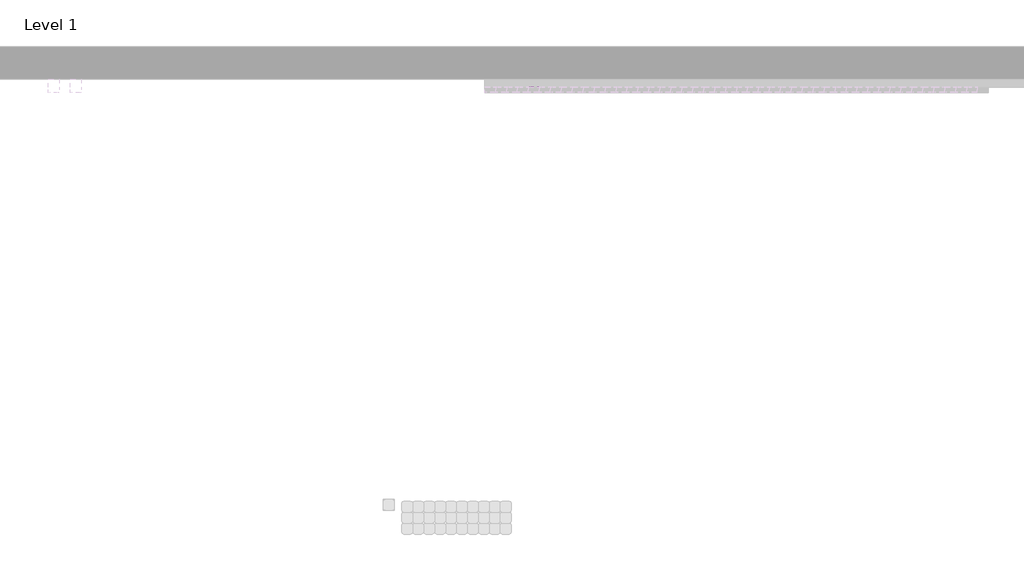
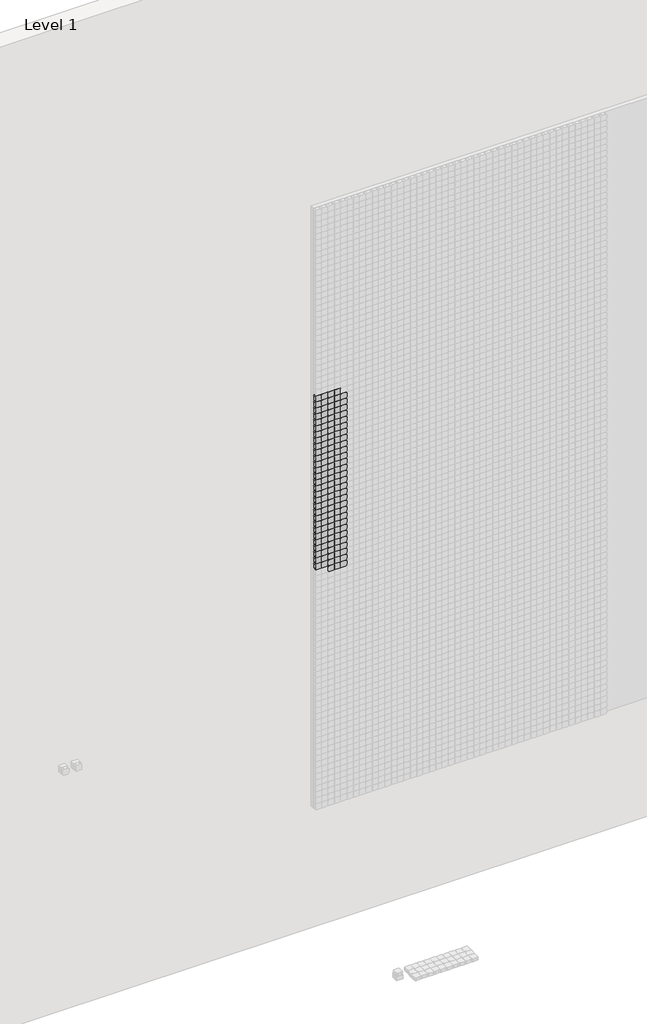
# One storey, part 5 of 71: 147 proxies.
"""IFC4 building model written with IfcOpenShell, lengths in millimetres."""

from ifc_helpers import new_model, si_unit, origin, place, context, project, spatial, transform, mapped, element, save
from components import generic_models_afde289c

model = new_model("IFC4")

# Units and contexts
model_context = context("Model", 3, world=origin())
ifc_project = project(units=[si_unit("LENGTHUNIT", "METRE", prefix="MILLI")], contexts=[model_context])

# Site, building, storey
site = spatial("IfcSite", under=ifc_project)
building = spatial("IfcBuilding", under=site)
storey = spatial("IfcBuildingStorey", under=building, Name="Level 1", Elevation=0.0)

# Proxies
placement = place(None, origin())
generic_models_shape = generic_models_afde289c(model_context)
element("IfcBuildingElementProxy", 1, Name="Pixel_M : Pixel_M", ObjectType="Pixel_M : Pixel_M", at=placement, inside=storey, context=model_context, shape_type="MappedRepresentation", body=[
    mapped(generic_models_shape, transform((4912.4280941, -75.0, 4416.3566215), x_axis=(1.0, 0.0, 0.0), y_axis=(0.0, 0.0, 1.0), z_axis=(0.0, -1.0, 0.0))),
])
element("IfcBuildingElementProxy", 2, Name="Pixel_M : Pixel_M", ObjectType="Pixel_M : Pixel_M", at=placement, inside=storey, context=model_context, shape_type="MappedRepresentation", body=[
    mapped(generic_models_shape, transform((4862.4280941, -75.0, 4416.3566215), x_axis=(1.0, 0.0, 0.0), y_axis=(0.0, 0.0, 1.0), z_axis=(0.0, -1.0, 0.0))),
])
element("IfcBuildingElementProxy", 3, Name="Pixel_M : Pixel_M", ObjectType="Pixel_M : Pixel_M", at=placement, inside=storey, context=model_context, shape_type="MappedRepresentation", body=[
    mapped(generic_models_shape, transform((4812.4280941, -75.0, 4416.3566215), x_axis=(1.0, 0.0, 0.0), y_axis=(0.0, 0.0, 1.0), z_axis=(0.0, -1.0, 0.0))),
])
element("IfcBuildingElementProxy", 4, Name="Pixel_M : Pixel_M", ObjectType="Pixel_M : Pixel_M", at=placement, inside=storey, context=model_context, shape_type="MappedRepresentation", body=[
    mapped(generic_models_shape, transform((4762.4280941, -75.0, 4416.3566215), x_axis=(1.0, 0.0, 0.0), y_axis=(0.0, 0.0, 1.0), z_axis=(0.0, -1.0, 0.0))),
])
element("IfcBuildingElementProxy", 5, Name="Pixel_M : Pixel_M", ObjectType="Pixel_M : Pixel_M", at=placement, inside=storey, context=model_context, shape_type="MappedRepresentation", body=[
    mapped(generic_models_shape, transform((4962.4280941, -75.0, 4366.3566215), x_axis=(1.0, 0.0, 0.0), y_axis=(0.0, 0.0, 1.0), z_axis=(0.0, -1.0, 0.0))),
])
element("IfcBuildingElementProxy", 6, Name="Pixel_M : Pixel_M", ObjectType="Pixel_M : Pixel_M", at=placement, inside=storey, context=model_context, shape_type="MappedRepresentation", body=[
    mapped(generic_models_shape, transform((4912.4280941, -75.0, 4366.3566215), x_axis=(1.0, 0.0, 0.0), y_axis=(0.0, 0.0, 1.0), z_axis=(0.0, -1.0, 0.0))),
])
element("IfcBuildingElementProxy", 7, Name="Pixel_M : Pixel_M", ObjectType="Pixel_M : Pixel_M", at=placement, inside=storey, context=model_context, shape_type="MappedRepresentation", body=[
    mapped(generic_models_shape, transform((4862.4280941, -75.0, 4366.3566215), x_axis=(1.0, 0.0, 0.0), y_axis=(0.0, 0.0, 1.0), z_axis=(0.0, -1.0, 0.0))),
])
element("IfcBuildingElementProxy", 8, Name="Pixel_M : Pixel_M", ObjectType="Pixel_M : Pixel_M", at=placement, inside=storey, context=model_context, shape_type="MappedRepresentation", body=[
    mapped(generic_models_shape, transform((4812.4280941, -75.0, 4366.3566215), x_axis=(1.0, 0.0, 0.0), y_axis=(0.0, 0.0, 1.0), z_axis=(0.0, -1.0, 0.0))),
])
element("IfcBuildingElementProxy", 9, Name="Pixel_M : Pixel_M", ObjectType="Pixel_M : Pixel_M", at=placement, inside=storey, context=model_context, shape_type="MappedRepresentation", body=[
    mapped(generic_models_shape, transform((4762.4280941, -75.0, 4366.3566215), x_axis=(1.0, 0.0, 0.0), y_axis=(0.0, 0.0, 1.0), z_axis=(0.0, -1.0, 0.0))),
])
element("IfcBuildingElementProxy", 10, Name="Pixel_M : Pixel_M", ObjectType="Pixel_M : Pixel_M", at=placement, inside=storey, context=model_context, shape_type="MappedRepresentation", body=[
    mapped(generic_models_shape, transform((4962.4280941, -75.0, 4316.3566215), x_axis=(1.0, 0.0, 0.0), y_axis=(0.0, 0.0, 1.0), z_axis=(0.0, -1.0, 0.0))),
])
element("IfcBuildingElementProxy", 11, Name="Pixel_M : Pixel_M", ObjectType="Pixel_M : Pixel_M", at=placement, inside=storey, context=model_context, shape_type="MappedRepresentation", body=[
    mapped(generic_models_shape, transform((4912.4280941, -75.0, 4316.3566215), x_axis=(1.0, 0.0, 0.0), y_axis=(0.0, 0.0, 1.0), z_axis=(0.0, -1.0, 0.0))),
])
element("IfcBuildingElementProxy", 12, Name="Pixel_M : Pixel_M", ObjectType="Pixel_M : Pixel_M", at=placement, inside=storey, context=model_context, shape_type="MappedRepresentation", body=[
    mapped(generic_models_shape, transform((4862.4280941, -75.0, 4316.3566215), x_axis=(1.0, 0.0, 0.0), y_axis=(0.0, 0.0, 1.0), z_axis=(0.0, -1.0, 0.0))),
])
element("IfcBuildingElementProxy", 13, Name="Pixel_M : Pixel_M", ObjectType="Pixel_M : Pixel_M", at=placement, inside=storey, context=model_context, shape_type="MappedRepresentation", body=[
    mapped(generic_models_shape, transform((4812.4280941, -75.0, 4316.3566215), x_axis=(1.0, 0.0, 0.0), y_axis=(0.0, 0.0, 1.0), z_axis=(0.0, -1.0, 0.0))),
])
element("IfcBuildingElementProxy", 14, Name="Pixel_M : Pixel_M", ObjectType="Pixel_M : Pixel_M", at=placement, inside=storey, context=model_context, shape_type="MappedRepresentation", body=[
    mapped(generic_models_shape, transform((4762.4280941, -75.0, 4316.3566215), x_axis=(1.0, 0.0, 0.0), y_axis=(0.0, 0.0, 1.0), z_axis=(0.0, -1.0, 0.0))),
])
element("IfcBuildingElementProxy", 15, Name="Pixel_M : Pixel_M", ObjectType="Pixel_M : Pixel_M", at=placement, inside=storey, context=model_context, shape_type="MappedRepresentation", body=[
    mapped(generic_models_shape, transform((4962.4280941, -75.0, 4266.3566215), x_axis=(1.0, 0.0, 0.0), y_axis=(0.0, 0.0, 1.0), z_axis=(0.0, -1.0, 0.0))),
])
element("IfcBuildingElementProxy", 16, Name="Pixel_M : Pixel_M", ObjectType="Pixel_M : Pixel_M", at=placement, inside=storey, context=model_context, shape_type="MappedRepresentation", body=[
    mapped(generic_models_shape, transform((4912.4280941, -75.0, 4266.3566215), x_axis=(1.0, 0.0, 0.0), y_axis=(0.0, 0.0, 1.0), z_axis=(0.0, -1.0, 0.0))),
])
element("IfcBuildingElementProxy", 17, Name="Pixel_M : Pixel_M", ObjectType="Pixel_M : Pixel_M", at=placement, inside=storey, context=model_context, shape_type="MappedRepresentation", body=[
    mapped(generic_models_shape, transform((4862.4280941, -75.0, 4266.3566215), x_axis=(1.0, 0.0, 0.0), y_axis=(0.0, 0.0, 1.0), z_axis=(0.0, -1.0, 0.0))),
])
element("IfcBuildingElementProxy", 18, Name="Pixel_M : Pixel_M", ObjectType="Pixel_M : Pixel_M", at=placement, inside=storey, context=model_context, shape_type="MappedRepresentation", body=[
    mapped(generic_models_shape, transform((4812.4280941, -75.0, 4266.3566215), x_axis=(1.0, 0.0, 0.0), y_axis=(0.0, 0.0, 1.0), z_axis=(0.0, -1.0, 0.0))),
])
element("IfcBuildingElementProxy", 19, Name="Pixel_M : Pixel_M", ObjectType="Pixel_M : Pixel_M", at=placement, inside=storey, context=model_context, shape_type="MappedRepresentation", body=[
    mapped(generic_models_shape, transform((4762.4280941, -75.0, 4266.3566215), x_axis=(1.0, 0.0, 0.0), y_axis=(0.0, 0.0, 1.0), z_axis=(0.0, -1.0, 0.0))),
])
element("IfcBuildingElementProxy", 20, Name="Pixel_M : Pixel_M", ObjectType="Pixel_M : Pixel_M", at=placement, inside=storey, context=model_context, shape_type="MappedRepresentation", body=[
    mapped(generic_models_shape, transform((4962.4280941, -75.0, 4216.3566215), x_axis=(1.0, 0.0, 0.0), y_axis=(0.0, 0.0, 1.0), z_axis=(0.0, -1.0, 0.0))),
])
element("IfcBuildingElementProxy", 21, Name="Pixel_M : Pixel_M", ObjectType="Pixel_M : Pixel_M", at=placement, inside=storey, context=model_context, shape_type="MappedRepresentation", body=[
    mapped(generic_models_shape, transform((4912.4280941, -75.0, 4216.3566215), x_axis=(1.0, 0.0, 0.0), y_axis=(0.0, 0.0, 1.0), z_axis=(0.0, -1.0, 0.0))),
])
element("IfcBuildingElementProxy", 22, Name="Pixel_M : Pixel_M", ObjectType="Pixel_M : Pixel_M", at=placement, inside=storey, context=model_context, shape_type="MappedRepresentation", body=[
    mapped(generic_models_shape, transform((4862.4280941, -75.0, 4216.3566215), x_axis=(1.0, 0.0, 0.0), y_axis=(0.0, 0.0, 1.0), z_axis=(0.0, -1.0, 0.0))),
])
element("IfcBuildingElementProxy", 23, Name="Pixel_M : Pixel_M", ObjectType="Pixel_M : Pixel_M", at=placement, inside=storey, context=model_context, shape_type="MappedRepresentation", body=[
    mapped(generic_models_shape, transform((4812.4280941, -75.0, 4216.3566215), x_axis=(1.0, 0.0, 0.0), y_axis=(0.0, 0.0, 1.0), z_axis=(0.0, -1.0, 0.0))),
])
element("IfcBuildingElementProxy", 24, Name="Pixel_M : Pixel_M", ObjectType="Pixel_M : Pixel_M", at=placement, inside=storey, context=model_context, shape_type="MappedRepresentation", body=[
    mapped(generic_models_shape, transform((4762.4280941, -75.0, 4216.3566215), x_axis=(1.0, 0.0, 0.0), y_axis=(0.0, 0.0, 1.0), z_axis=(0.0, -1.0, 0.0))),
])
element("IfcBuildingElementProxy", 25, Name="Pixel_M : Pixel_M", ObjectType="Pixel_M : Pixel_M", at=placement, inside=storey, context=model_context, shape_type="MappedRepresentation", body=[
    mapped(generic_models_shape, transform((4962.4280941, -75.0, 4166.3566215), x_axis=(1.0, 0.0, 0.0), y_axis=(0.0, 0.0, 1.0), z_axis=(0.0, -1.0, 0.0))),
])
element("IfcBuildingElementProxy", 26, Name="Pixel_M : Pixel_M", ObjectType="Pixel_M : Pixel_M", at=placement, inside=storey, context=model_context, shape_type="MappedRepresentation", body=[
    mapped(generic_models_shape, transform((4912.4280941, -75.0, 4166.3566215), x_axis=(1.0, 0.0, 0.0), y_axis=(0.0, 0.0, 1.0), z_axis=(0.0, -1.0, 0.0))),
])
element("IfcBuildingElementProxy", 27, Name="Pixel_M : Pixel_M", ObjectType="Pixel_M : Pixel_M", at=placement, inside=storey, context=model_context, shape_type="MappedRepresentation", body=[
    mapped(generic_models_shape, transform((4862.4280941, -75.0, 4166.3566215), x_axis=(1.0, 0.0, 0.0), y_axis=(0.0, 0.0, 1.0), z_axis=(0.0, -1.0, 0.0))),
])
element("IfcBuildingElementProxy", 28, Name="Pixel_M : Pixel_M", ObjectType="Pixel_M : Pixel_M", at=placement, inside=storey, context=model_context, shape_type="MappedRepresentation", body=[
    mapped(generic_models_shape, transform((4812.4280941, -75.0, 4166.3566215), x_axis=(1.0, 0.0, 0.0), y_axis=(0.0, 0.0, 1.0), z_axis=(0.0, -1.0, 0.0))),
])
element("IfcBuildingElementProxy", 29, Name="Pixel_M : Pixel_M", ObjectType="Pixel_M : Pixel_M", at=placement, inside=storey, context=model_context, shape_type="MappedRepresentation", body=[
    mapped(generic_models_shape, transform((4762.4280941, -75.0, 4166.3566215), x_axis=(1.0, 0.0, 0.0), y_axis=(0.0, 0.0, 1.0), z_axis=(0.0, -1.0, 0.0))),
])
element("IfcBuildingElementProxy", 30, Name="Pixel_M : Pixel_M", ObjectType="Pixel_M : Pixel_M", at=placement, inside=storey, context=model_context, shape_type="MappedRepresentation", body=[
    mapped(generic_models_shape, transform((4962.4280941, -75.0, 4116.3566215), x_axis=(1.0, 0.0, 0.0), y_axis=(0.0, 0.0, 1.0), z_axis=(0.0, -1.0, 0.0))),
])
element("IfcBuildingElementProxy", 31, Name="Pixel_M : Pixel_M", ObjectType="Pixel_M : Pixel_M", at=placement, inside=storey, context=model_context, shape_type="MappedRepresentation", body=[
    mapped(generic_models_shape, transform((4912.4280941, -75.0, 4116.3566215), x_axis=(1.0, 0.0, 0.0), y_axis=(0.0, 0.0, 1.0), z_axis=(0.0, -1.0, 0.0))),
])
element("IfcBuildingElementProxy", 32, Name="Pixel_M : Pixel_M", ObjectType="Pixel_M : Pixel_M", at=placement, inside=storey, context=model_context, shape_type="MappedRepresentation", body=[
    mapped(generic_models_shape, transform((4862.4280941, -75.0, 4116.3566215), x_axis=(1.0, 0.0, 0.0), y_axis=(0.0, 0.0, 1.0), z_axis=(0.0, -1.0, 0.0))),
])
element("IfcBuildingElementProxy", 33, Name="Pixel_M : Pixel_M", ObjectType="Pixel_M : Pixel_M", at=placement, inside=storey, context=model_context, shape_type="MappedRepresentation", body=[
    mapped(generic_models_shape, transform((4812.4280941, -75.0, 4116.3566215), x_axis=(1.0, 0.0, 0.0), y_axis=(0.0, 0.0, 1.0), z_axis=(0.0, -1.0, 0.0))),
])
element("IfcBuildingElementProxy", 34, Name="Pixel_M : Pixel_M", ObjectType="Pixel_M : Pixel_M", at=placement, inside=storey, context=model_context, shape_type="MappedRepresentation", body=[
    mapped(generic_models_shape, transform((4762.4280941, -75.0, 4116.3566215), x_axis=(1.0, 0.0, 0.0), y_axis=(0.0, 0.0, 1.0), z_axis=(0.0, -1.0, 0.0))),
])
element("IfcBuildingElementProxy", 35, Name="Pixel_M : Pixel_M", ObjectType="Pixel_M : Pixel_M", at=placement, inside=storey, context=model_context, shape_type="MappedRepresentation", body=[
    mapped(generic_models_shape, transform((4962.4280941, -75.0, 4066.3566215), x_axis=(1.0, 0.0, 0.0), y_axis=(0.0, 0.0, 1.0), z_axis=(0.0, -1.0, 0.0))),
])
element("IfcBuildingElementProxy", 36, Name="Pixel_M : Pixel_M", ObjectType="Pixel_M : Pixel_M", at=placement, inside=storey, context=model_context, shape_type="MappedRepresentation", body=[
    mapped(generic_models_shape, transform((4912.4280941, -75.0, 4066.3566215), x_axis=(1.0, 0.0, 0.0), y_axis=(0.0, 0.0, 1.0), z_axis=(0.0, -1.0, 0.0))),
])
element("IfcBuildingElementProxy", 37, Name="Pixel_M : Pixel_M", ObjectType="Pixel_M : Pixel_M", at=placement, inside=storey, context=model_context, shape_type="MappedRepresentation", body=[
    mapped(generic_models_shape, transform((4862.4280941, -75.0, 4066.3566215), x_axis=(1.0, 0.0, 0.0), y_axis=(0.0, 0.0, 1.0), z_axis=(0.0, -1.0, 0.0))),
])
element("IfcBuildingElementProxy", 38, Name="Pixel_M : Pixel_M", ObjectType="Pixel_M : Pixel_M", at=placement, inside=storey, context=model_context, shape_type="MappedRepresentation", body=[
    mapped(generic_models_shape, transform((4812.4280941, -75.0, 4066.3566215), x_axis=(1.0, 0.0, 0.0), y_axis=(0.0, 0.0, 1.0), z_axis=(0.0, -1.0, 0.0))),
])
element("IfcBuildingElementProxy", 39, Name="Pixel_M : Pixel_M", ObjectType="Pixel_M : Pixel_M", at=placement, inside=storey, context=model_context, shape_type="MappedRepresentation", body=[
    mapped(generic_models_shape, transform((4762.4280941, -75.0, 4066.3566215), x_axis=(1.0, 0.0, 0.0), y_axis=(0.0, 0.0, 1.0), z_axis=(0.0, -1.0, 0.0))),
])
element("IfcBuildingElementProxy", 40, Name="Pixel_M : Pixel_M", ObjectType="Pixel_M : Pixel_M", at=placement, inside=storey, context=model_context, shape_type="MappedRepresentation", body=[
    mapped(generic_models_shape, transform((4962.4280941, -75.0, 4016.3566215), x_axis=(1.0, 0.0, 0.0), y_axis=(0.0, 0.0, 1.0), z_axis=(0.0, -1.0, 0.0))),
])
element("IfcBuildingElementProxy", 41, Name="Pixel_M : Pixel_M", ObjectType="Pixel_M : Pixel_M", at=placement, inside=storey, context=model_context, shape_type="MappedRepresentation", body=[
    mapped(generic_models_shape, transform((4912.4280941, -75.0, 4016.3566215), x_axis=(1.0, 0.0, 0.0), y_axis=(0.0, 0.0, 1.0), z_axis=(0.0, -1.0, 0.0))),
])
element("IfcBuildingElementProxy", 42, Name="Pixel_M : Pixel_M", ObjectType="Pixel_M : Pixel_M", at=placement, inside=storey, context=model_context, shape_type="MappedRepresentation", body=[
    mapped(generic_models_shape, transform((4862.4280941, -75.0, 4016.3566215), x_axis=(1.0, 0.0, 0.0), y_axis=(0.0, 0.0, 1.0), z_axis=(0.0, -1.0, 0.0))),
])
element("IfcBuildingElementProxy", 43, Name="Pixel_M : Pixel_M", ObjectType="Pixel_M : Pixel_M", at=placement, inside=storey, context=model_context, shape_type="MappedRepresentation", body=[
    mapped(generic_models_shape, transform((4812.4280941, -75.0, 4016.3566215), x_axis=(1.0, 0.0, 0.0), y_axis=(0.0, 0.0, 1.0), z_axis=(0.0, -1.0, 0.0))),
])
element("IfcBuildingElementProxy", 44, Name="Pixel_M : Pixel_M", ObjectType="Pixel_M : Pixel_M", at=placement, inside=storey, context=model_context, shape_type="MappedRepresentation", body=[
    mapped(generic_models_shape, transform((4762.4280941, -75.0, 4016.3566215), x_axis=(1.0, 0.0, 0.0), y_axis=(0.0, 0.0, 1.0), z_axis=(0.0, -1.0, 0.0))),
])
element("IfcBuildingElementProxy", 45, Name="Pixel_M : Pixel_M", ObjectType="Pixel_M : Pixel_M", at=placement, inside=storey, context=model_context, shape_type="MappedRepresentation", body=[
    mapped(generic_models_shape, transform((4962.4280941, -75.0, 3966.3566215), x_axis=(1.0, 0.0, 0.0), y_axis=(0.0, 0.0, 1.0), z_axis=(0.0, -1.0, 0.0))),
])
element("IfcBuildingElementProxy", 46, Name="Pixel_M : Pixel_M", ObjectType="Pixel_M : Pixel_M", at=placement, inside=storey, context=model_context, shape_type="MappedRepresentation", body=[
    mapped(generic_models_shape, transform((4912.4280941, -75.0, 3966.3566215), x_axis=(1.0, 0.0, 0.0), y_axis=(0.0, 0.0, 1.0), z_axis=(0.0, -1.0, 0.0))),
])
element("IfcBuildingElementProxy", 47, Name="Pixel_M : Pixel_M", ObjectType="Pixel_M : Pixel_M", at=placement, inside=storey, context=model_context, shape_type="MappedRepresentation", body=[
    mapped(generic_models_shape, transform((4862.4280941, -75.0, 3966.3566215), x_axis=(1.0, 0.0, 0.0), y_axis=(0.0, 0.0, 1.0), z_axis=(0.0, -1.0, 0.0))),
])
element("IfcBuildingElementProxy", 48, Name="Pixel_M : Pixel_M", ObjectType="Pixel_M : Pixel_M", at=placement, inside=storey, context=model_context, shape_type="MappedRepresentation", body=[
    mapped(generic_models_shape, transform((4812.4280941, -75.0, 3966.3566215), x_axis=(1.0, 0.0, 0.0), y_axis=(0.0, 0.0, 1.0), z_axis=(0.0, -1.0, 0.0))),
])
element("IfcBuildingElementProxy", 49, Name="Pixel_M : Pixel_M", ObjectType="Pixel_M : Pixel_M", at=placement, inside=storey, context=model_context, shape_type="MappedRepresentation", body=[
    mapped(generic_models_shape, transform((4762.4280941, -75.0, 3966.3566215), x_axis=(1.0, 0.0, 0.0), y_axis=(0.0, 0.0, 1.0), z_axis=(0.0, -1.0, 0.0))),
])
element("IfcBuildingElementProxy", 50, Name="Pixel_M : Pixel_M", ObjectType="Pixel_M : Pixel_M", at=placement, inside=storey, context=model_context, shape_type="MappedRepresentation", body=[
    mapped(generic_models_shape, transform((4962.4280941, -75.0, 3916.3566215), x_axis=(1.0, 0.0, 0.0), y_axis=(0.0, 0.0, 1.0), z_axis=(0.0, -1.0, 0.0))),
])
element("IfcBuildingElementProxy", 51, Name="Pixel_M : Pixel_M", ObjectType="Pixel_M : Pixel_M", at=placement, inside=storey, context=model_context, shape_type="MappedRepresentation", body=[
    mapped(generic_models_shape, transform((4912.4280941, -75.0, 3916.3566215), x_axis=(1.0, 0.0, 0.0), y_axis=(0.0, 0.0, 1.0), z_axis=(0.0, -1.0, 0.0))),
])
element("IfcBuildingElementProxy", 52, Name="Pixel_M : Pixel_M", ObjectType="Pixel_M : Pixel_M", at=placement, inside=storey, context=model_context, shape_type="MappedRepresentation", body=[
    mapped(generic_models_shape, transform((4862.4280941, -75.0, 3916.3566215), x_axis=(1.0, 0.0, 0.0), y_axis=(0.0, 0.0, 1.0), z_axis=(0.0, -1.0, 0.0))),
])
element("IfcBuildingElementProxy", 53, Name="Pixel_M : Pixel_M", ObjectType="Pixel_M : Pixel_M", at=placement, inside=storey, context=model_context, shape_type="MappedRepresentation", body=[
    mapped(generic_models_shape, transform((4812.4280941, -75.0, 3916.3566215), x_axis=(1.0, 0.0, 0.0), y_axis=(0.0, 0.0, 1.0), z_axis=(0.0, -1.0, 0.0))),
])
element("IfcBuildingElementProxy", 54, Name="Pixel_M : Pixel_M", ObjectType="Pixel_M : Pixel_M", at=placement, inside=storey, context=model_context, shape_type="MappedRepresentation", body=[
    mapped(generic_models_shape, transform((4762.4280941, -75.0, 3916.3566215), x_axis=(1.0, 0.0, 0.0), y_axis=(0.0, 0.0, 1.0), z_axis=(0.0, -1.0, 0.0))),
])
element("IfcBuildingElementProxy", 55, Name="Pixel_M : Pixel_M", ObjectType="Pixel_M : Pixel_M", at=placement, inside=storey, context=model_context, shape_type="MappedRepresentation", body=[
    mapped(generic_models_shape, transform((4962.4280941, -75.0, 3866.3566215), x_axis=(1.0, 0.0, 0.0), y_axis=(0.0, 0.0, 1.0), z_axis=(0.0, -1.0, 0.0))),
])
element("IfcBuildingElementProxy", 56, Name="Pixel_M : Pixel_M", ObjectType="Pixel_M : Pixel_M", at=placement, inside=storey, context=model_context, shape_type="MappedRepresentation", body=[
    mapped(generic_models_shape, transform((4912.4280941, -75.0, 3866.3566215), x_axis=(1.0, 0.0, 0.0), y_axis=(0.0, 0.0, 1.0), z_axis=(0.0, -1.0, 0.0))),
])
element("IfcBuildingElementProxy", 57, Name="Pixel_M : Pixel_M", ObjectType="Pixel_M : Pixel_M", at=placement, inside=storey, context=model_context, shape_type="MappedRepresentation", body=[
    mapped(generic_models_shape, transform((4862.4280941, -75.0, 3866.3566215), x_axis=(1.0, 0.0, 0.0), y_axis=(0.0, 0.0, 1.0), z_axis=(0.0, -1.0, 0.0))),
])
element("IfcBuildingElementProxy", 58, Name="Pixel_M : Pixel_M", ObjectType="Pixel_M : Pixel_M", at=placement, inside=storey, context=model_context, shape_type="MappedRepresentation", body=[
    mapped(generic_models_shape, transform((4812.4280941, -75.0, 3866.3566215), x_axis=(1.0, 0.0, 0.0), y_axis=(0.0, 0.0, 1.0), z_axis=(0.0, -1.0, 0.0))),
])
element("IfcBuildingElementProxy", 59, Name="Pixel_M : Pixel_M", ObjectType="Pixel_M : Pixel_M", at=placement, inside=storey, context=model_context, shape_type="MappedRepresentation", body=[
    mapped(generic_models_shape, transform((4762.4280941, -75.0, 3866.3566215), x_axis=(1.0, 0.0, 0.0), y_axis=(0.0, 0.0, 1.0), z_axis=(0.0, -1.0, 0.0))),
])
element("IfcBuildingElementProxy", 60, Name="Pixel_M : Pixel_M", ObjectType="Pixel_M : Pixel_M", at=placement, inside=storey, context=model_context, shape_type="MappedRepresentation", body=[
    mapped(generic_models_shape, transform((4962.4280941, -75.0, 3816.3566215), x_axis=(1.0, 0.0, 0.0), y_axis=(0.0, 0.0, 1.0), z_axis=(0.0, -1.0, 0.0))),
])
element("IfcBuildingElementProxy", 61, Name="Pixel_M : Pixel_M", ObjectType="Pixel_M : Pixel_M", at=placement, inside=storey, context=model_context, shape_type="MappedRepresentation", body=[
    mapped(generic_models_shape, transform((4912.4280941, -75.0, 3816.3566215), x_axis=(1.0, 0.0, 0.0), y_axis=(0.0, 0.0, 1.0), z_axis=(0.0, -1.0, 0.0))),
])
element("IfcBuildingElementProxy", 62, Name="Pixel_M : Pixel_M", ObjectType="Pixel_M : Pixel_M", at=placement, inside=storey, context=model_context, shape_type="MappedRepresentation", body=[
    mapped(generic_models_shape, transform((4862.4280941, -75.0, 3816.3566215), x_axis=(1.0, 0.0, 0.0), y_axis=(0.0, 0.0, 1.0), z_axis=(0.0, -1.0, 0.0))),
])
element("IfcBuildingElementProxy", 63, Name="Pixel_M : Pixel_M", ObjectType="Pixel_M : Pixel_M", at=placement, inside=storey, context=model_context, shape_type="MappedRepresentation", body=[
    mapped(generic_models_shape, transform((4812.4280941, -75.0, 3816.3566215), x_axis=(1.0, 0.0, 0.0), y_axis=(0.0, 0.0, 1.0), z_axis=(0.0, -1.0, 0.0))),
])
element("IfcBuildingElementProxy", 64, Name="Pixel_M : Pixel_M", ObjectType="Pixel_M : Pixel_M", at=placement, inside=storey, context=model_context, shape_type="MappedRepresentation", body=[
    mapped(generic_models_shape, transform((4762.4280941, -75.0, 3816.3566215), x_axis=(1.0, 0.0, 0.0), y_axis=(0.0, 0.0, 1.0), z_axis=(0.0, -1.0, 0.0))),
])
element("IfcBuildingElementProxy", 65, Name="Pixel_M : Pixel_M", ObjectType="Pixel_M : Pixel_M", at=placement, inside=storey, context=model_context, shape_type="MappedRepresentation", body=[
    mapped(generic_models_shape, transform((4962.4280941, -75.0, 3766.3566215), x_axis=(1.0, 0.0, 0.0), y_axis=(0.0, 0.0, 1.0), z_axis=(0.0, -1.0, 0.0))),
])
element("IfcBuildingElementProxy", 66, Name="Pixel_M : Pixel_M", ObjectType="Pixel_M : Pixel_M", at=placement, inside=storey, context=model_context, shape_type="MappedRepresentation", body=[
    mapped(generic_models_shape, transform((4912.4280941, -75.0, 3766.3566215), x_axis=(1.0, 0.0, 0.0), y_axis=(0.0, 0.0, 1.0), z_axis=(0.0, -1.0, 0.0))),
])
element("IfcBuildingElementProxy", 67, Name="Pixel_M : Pixel_M", ObjectType="Pixel_M : Pixel_M", at=placement, inside=storey, context=model_context, shape_type="MappedRepresentation", body=[
    mapped(generic_models_shape, transform((4862.4280941, -75.0, 3766.3566215), x_axis=(1.0, 0.0, 0.0), y_axis=(0.0, 0.0, 1.0), z_axis=(0.0, -1.0, 0.0))),
])
element("IfcBuildingElementProxy", 68, Name="Pixel_M : Pixel_M", ObjectType="Pixel_M : Pixel_M", at=placement, inside=storey, context=model_context, shape_type="MappedRepresentation", body=[
    mapped(generic_models_shape, transform((4812.4280941, -75.0, 3766.3566215), x_axis=(1.0, 0.0, 0.0), y_axis=(0.0, 0.0, 1.0), z_axis=(0.0, -1.0, 0.0))),
])
element("IfcBuildingElementProxy", 69, Name="Pixel_M : Pixel_M", ObjectType="Pixel_M : Pixel_M", at=placement, inside=storey, context=model_context, shape_type="MappedRepresentation", body=[
    mapped(generic_models_shape, transform((4762.4280941, -75.0, 3766.3566215), x_axis=(1.0, 0.0, 0.0), y_axis=(0.0, 0.0, 1.0), z_axis=(0.0, -1.0, 0.0))),
])
element("IfcBuildingElementProxy", 70, Name="Pixel_M : Pixel_M", ObjectType="Pixel_M : Pixel_M", at=placement, inside=storey, context=model_context, shape_type="MappedRepresentation", body=[
    mapped(generic_models_shape, transform((4962.4280941, -75.0, 3716.3566215), x_axis=(1.0, 0.0, 0.0), y_axis=(0.0, 0.0, 1.0), z_axis=(0.0, -1.0, 0.0))),
])
element("IfcBuildingElementProxy", 71, Name="Pixel_M : Pixel_M", ObjectType="Pixel_M : Pixel_M", at=placement, inside=storey, context=model_context, shape_type="MappedRepresentation", body=[
    mapped(generic_models_shape, transform((4912.4280941, -75.0, 3716.3566215), x_axis=(1.0, 0.0, 0.0), y_axis=(0.0, 0.0, 1.0), z_axis=(0.0, -1.0, 0.0))),
])
element("IfcBuildingElementProxy", 72, Name="Pixel_M : Pixel_M", ObjectType="Pixel_M : Pixel_M", at=placement, inside=storey, context=model_context, shape_type="MappedRepresentation", body=[
    mapped(generic_models_shape, transform((4862.4280941, -75.0, 3716.3566215), x_axis=(1.0, 0.0, 0.0), y_axis=(0.0, 0.0, 1.0), z_axis=(0.0, -1.0, 0.0))),
])
element("IfcBuildingElementProxy", 73, Name="Pixel_M : Pixel_M", ObjectType="Pixel_M : Pixel_M", at=placement, inside=storey, context=model_context, shape_type="MappedRepresentation", body=[
    mapped(generic_models_shape, transform((4812.4280941, -75.0, 3716.3566215), x_axis=(1.0, 0.0, 0.0), y_axis=(0.0, 0.0, 1.0), z_axis=(0.0, -1.0, 0.0))),
])
element("IfcBuildingElementProxy", 74, Name="Pixel_M : Pixel_M", ObjectType="Pixel_M : Pixel_M", at=placement, inside=storey, context=model_context, shape_type="MappedRepresentation", body=[
    mapped(generic_models_shape, transform((4762.4280941, -75.0, 3716.3566215), x_axis=(1.0, 0.0, 0.0), y_axis=(0.0, 0.0, 1.0), z_axis=(0.0, -1.0, 0.0))),
])
element("IfcBuildingElementProxy", 75, Name="Pixel_M : Pixel_M", ObjectType="Pixel_M : Pixel_M", at=placement, inside=storey, context=model_context, shape_type="MappedRepresentation", body=[
    mapped(generic_models_shape, transform((4962.4280941, -75.0, 3666.3566215), x_axis=(1.0, 0.0, 0.0), y_axis=(0.0, 0.0, 1.0), z_axis=(0.0, -1.0, 0.0))),
])
element("IfcBuildingElementProxy", 76, Name="Pixel_M : Pixel_M", ObjectType="Pixel_M : Pixel_M", at=placement, inside=storey, context=model_context, shape_type="MappedRepresentation", body=[
    mapped(generic_models_shape, transform((4912.4280941, -75.0, 3666.3566215), x_axis=(1.0, 0.0, 0.0), y_axis=(0.0, 0.0, 1.0), z_axis=(0.0, -1.0, 0.0))),
])
element("IfcBuildingElementProxy", 77, Name="Pixel_M : Pixel_M", ObjectType="Pixel_M : Pixel_M", at=placement, inside=storey, context=model_context, shape_type="MappedRepresentation", body=[
    mapped(generic_models_shape, transform((4862.4280941, -75.0, 3666.3566215), x_axis=(1.0, 0.0, 0.0), y_axis=(0.0, 0.0, 1.0), z_axis=(0.0, -1.0, 0.0))),
])
element("IfcBuildingElementProxy", 78, Name="Pixel_M : Pixel_M", ObjectType="Pixel_M : Pixel_M", at=placement, inside=storey, context=model_context, shape_type="MappedRepresentation", body=[
    mapped(generic_models_shape, transform((4812.4280941, -75.0, 3666.3566215), x_axis=(1.0, 0.0, 0.0), y_axis=(0.0, 0.0, 1.0), z_axis=(0.0, -1.0, 0.0))),
])
element("IfcBuildingElementProxy", 79, Name="Pixel_M : Pixel_M", ObjectType="Pixel_M : Pixel_M", at=placement, inside=storey, context=model_context, shape_type="MappedRepresentation", body=[
    mapped(generic_models_shape, transform((4762.4280941, -75.0, 3666.3566215), x_axis=(1.0, 0.0, 0.0), y_axis=(0.0, 0.0, 1.0), z_axis=(0.0, -1.0, 0.0))),
])
element("IfcBuildingElementProxy", 80, Name="Pixel_M : Pixel_M", ObjectType="Pixel_M : Pixel_M", at=placement, inside=storey, context=model_context, shape_type="MappedRepresentation", body=[
    mapped(generic_models_shape, transform((4962.4280941, -75.0, 3616.3566215), x_axis=(1.0, 0.0, 0.0), y_axis=(0.0, 0.0, 1.0), z_axis=(0.0, -1.0, 0.0))),
])
element("IfcBuildingElementProxy", 81, Name="Pixel_M : Pixel_M", ObjectType="Pixel_M : Pixel_M", at=placement, inside=storey, context=model_context, shape_type="MappedRepresentation", body=[
    mapped(generic_models_shape, transform((4912.4280941, -75.0, 3616.3566215), x_axis=(1.0, 0.0, 0.0), y_axis=(0.0, 0.0, 1.0), z_axis=(0.0, -1.0, 0.0))),
])
element("IfcBuildingElementProxy", 82, Name="Pixel_M : Pixel_M", ObjectType="Pixel_M : Pixel_M", at=placement, inside=storey, context=model_context, shape_type="MappedRepresentation", body=[
    mapped(generic_models_shape, transform((4862.4280941, -75.0, 3616.3566215), x_axis=(1.0, 0.0, 0.0), y_axis=(0.0, 0.0, 1.0), z_axis=(0.0, -1.0, 0.0))),
])
element("IfcBuildingElementProxy", 83, Name="Pixel_M : Pixel_M", ObjectType="Pixel_M : Pixel_M", at=placement, inside=storey, context=model_context, shape_type="MappedRepresentation", body=[
    mapped(generic_models_shape, transform((4812.4280941, -75.0, 3616.3566215), x_axis=(1.0, 0.0, 0.0), y_axis=(0.0, 0.0, 1.0), z_axis=(0.0, -1.0, 0.0))),
])
element("IfcBuildingElementProxy", 84, Name="Pixel_M : Pixel_M", ObjectType="Pixel_M : Pixel_M", at=placement, inside=storey, context=model_context, shape_type="MappedRepresentation", body=[
    mapped(generic_models_shape, transform((4762.4280941, -75.0, 3616.3566215), x_axis=(1.0, 0.0, 0.0), y_axis=(0.0, 0.0, 1.0), z_axis=(0.0, -1.0, 0.0))),
])
element("IfcBuildingElementProxy", 85, Name="Pixel_M : Pixel_M", ObjectType="Pixel_M : Pixel_M", at=placement, inside=storey, context=model_context, shape_type="MappedRepresentation", body=[
    mapped(generic_models_shape, transform((4962.4280941, -75.0, 3566.3566215), x_axis=(1.0, 0.0, 0.0), y_axis=(0.0, 0.0, 1.0), z_axis=(0.0, -1.0, 0.0))),
])
element("IfcBuildingElementProxy", 86, Name="Pixel_M : Pixel_M", ObjectType="Pixel_M : Pixel_M", at=placement, inside=storey, context=model_context, shape_type="MappedRepresentation", body=[
    mapped(generic_models_shape, transform((4912.4280941, -75.0, 3566.3566215), x_axis=(1.0, 0.0, 0.0), y_axis=(0.0, 0.0, 1.0), z_axis=(0.0, -1.0, 0.0))),
])
element("IfcBuildingElementProxy", 87, Name="Pixel_M : Pixel_M", ObjectType="Pixel_M : Pixel_M", at=placement, inside=storey, context=model_context, shape_type="MappedRepresentation", body=[
    mapped(generic_models_shape, transform((4862.4280941, -75.0, 3566.3566215), x_axis=(1.0, 0.0, 0.0), y_axis=(0.0, 0.0, 1.0), z_axis=(0.0, -1.0, 0.0))),
])
element("IfcBuildingElementProxy", 88, Name="Pixel_M : Pixel_M", ObjectType="Pixel_M : Pixel_M", at=placement, inside=storey, context=model_context, shape_type="MappedRepresentation", body=[
    mapped(generic_models_shape, transform((4812.4280941, -75.0, 3566.3566215), x_axis=(1.0, 0.0, 0.0), y_axis=(0.0, 0.0, 1.0), z_axis=(0.0, -1.0, 0.0))),
])
element("IfcBuildingElementProxy", 89, Name="Pixel_M : Pixel_M", ObjectType="Pixel_M : Pixel_M", at=placement, inside=storey, context=model_context, shape_type="MappedRepresentation", body=[
    mapped(generic_models_shape, transform((4762.4280941, -75.0, 3566.3566215), x_axis=(1.0, 0.0, 0.0), y_axis=(0.0, 0.0, 1.0), z_axis=(0.0, -1.0, 0.0))),
])
element("IfcBuildingElementProxy", 90, Name="Pixel_M : Pixel_M", ObjectType="Pixel_M : Pixel_M", at=placement, inside=storey, context=model_context, shape_type="MappedRepresentation", body=[
    mapped(generic_models_shape, transform((4962.4280941, -75.0, 3516.3566215), x_axis=(1.0, 0.0, 0.0), y_axis=(0.0, 0.0, 1.0), z_axis=(0.0, -1.0, 0.0))),
])
element("IfcBuildingElementProxy", 91, Name="Pixel_M : Pixel_M", ObjectType="Pixel_M : Pixel_M", at=placement, inside=storey, context=model_context, shape_type="MappedRepresentation", body=[
    mapped(generic_models_shape, transform((4912.4280941, -75.0, 3516.3566215), x_axis=(1.0, 0.0, 0.0), y_axis=(0.0, 0.0, 1.0), z_axis=(0.0, -1.0, 0.0))),
])
element("IfcBuildingElementProxy", 92, Name="Pixel_M : Pixel_M", ObjectType="Pixel_M : Pixel_M", at=placement, inside=storey, context=model_context, shape_type="MappedRepresentation", body=[
    mapped(generic_models_shape, transform((4862.4280941, -75.0, 3516.3566215), x_axis=(1.0, 0.0, 0.0), y_axis=(0.0, 0.0, 1.0), z_axis=(0.0, -1.0, 0.0))),
])
element("IfcBuildingElementProxy", 93, Name="Pixel_M : Pixel_M", ObjectType="Pixel_M : Pixel_M", at=placement, inside=storey, context=model_context, shape_type="MappedRepresentation", body=[
    mapped(generic_models_shape, transform((4812.4280941, -75.0, 3516.3566215), x_axis=(1.0, 0.0, 0.0), y_axis=(0.0, 0.0, 1.0), z_axis=(0.0, -1.0, 0.0))),
])
element("IfcBuildingElementProxy", 94, Name="Pixel_M : Pixel_M", ObjectType="Pixel_M : Pixel_M", at=placement, inside=storey, context=model_context, shape_type="MappedRepresentation", body=[
    mapped(generic_models_shape, transform((4762.4280941, -75.0, 3516.3566215), x_axis=(1.0, 0.0, 0.0), y_axis=(0.0, 0.0, 1.0), z_axis=(0.0, -1.0, 0.0))),
])
element("IfcBuildingElementProxy", 95, Name="Pixel_M : Pixel_M", ObjectType="Pixel_M : Pixel_M", at=placement, inside=storey, context=model_context, shape_type="MappedRepresentation", body=[
    mapped(generic_models_shape, transform((4962.4280941, -75.0, 3466.3566215), x_axis=(1.0, 0.0, 0.0), y_axis=(0.0, 0.0, 1.0), z_axis=(0.0, -1.0, 0.0))),
])
element("IfcBuildingElementProxy", 96, Name="Pixel_M : Pixel_M", ObjectType="Pixel_M : Pixel_M", at=placement, inside=storey, context=model_context, shape_type="MappedRepresentation", body=[
    mapped(generic_models_shape, transform((4912.4280941, -75.0, 3466.3566215), x_axis=(1.0, 0.0, 0.0), y_axis=(0.0, 0.0, 1.0), z_axis=(0.0, -1.0, 0.0))),
])
element("IfcBuildingElementProxy", 97, Name="Pixel_M : Pixel_M", ObjectType="Pixel_M : Pixel_M", at=placement, inside=storey, context=model_context, shape_type="MappedRepresentation", body=[
    mapped(generic_models_shape, transform((4862.4280941, -75.0, 3466.3566215), x_axis=(1.0, 0.0, 0.0), y_axis=(0.0, 0.0, 1.0), z_axis=(0.0, -1.0, 0.0))),
])
element("IfcBuildingElementProxy", 98, Name="Pixel_M : Pixel_M", ObjectType="Pixel_M : Pixel_M", at=placement, inside=storey, context=model_context, shape_type="MappedRepresentation", body=[
    mapped(generic_models_shape, transform((4812.4280941, -75.0, 3466.3566215), x_axis=(1.0, 0.0, 0.0), y_axis=(0.0, 0.0, 1.0), z_axis=(0.0, -1.0, 0.0))),
])
element("IfcBuildingElementProxy", 99, Name="Pixel_M : Pixel_M", ObjectType="Pixel_M : Pixel_M", at=placement, inside=storey, context=model_context, shape_type="MappedRepresentation", body=[
    mapped(generic_models_shape, transform((4762.4280941, -75.0, 3466.3566215), x_axis=(1.0, 0.0, 0.0), y_axis=(0.0, 0.0, 1.0), z_axis=(0.0, -1.0, 0.0))),
])
element("IfcBuildingElementProxy", 100, Name="Pixel_M : Pixel_M", ObjectType="Pixel_M : Pixel_M", at=placement, inside=storey, context=model_context, shape_type="MappedRepresentation", body=[
    mapped(generic_models_shape, transform((4962.4280941, -75.0, 3416.3566215), x_axis=(1.0, 0.0, 0.0), y_axis=(0.0, 0.0, 1.0), z_axis=(0.0, -1.0, 0.0))),
])
element("IfcBuildingElementProxy", 101, Name="Pixel_M : Pixel_M", ObjectType="Pixel_M : Pixel_M", at=placement, inside=storey, context=model_context, shape_type="MappedRepresentation", body=[
    mapped(generic_models_shape, transform((4912.4280941, -75.0, 3416.3566215), x_axis=(1.0, 0.0, 0.0), y_axis=(0.0, 0.0, 1.0), z_axis=(0.0, -1.0, 0.0))),
])
element("IfcBuildingElementProxy", 102, Name="Pixel_M : Pixel_M", ObjectType="Pixel_M : Pixel_M", at=placement, inside=storey, context=model_context, shape_type="MappedRepresentation", body=[
    mapped(generic_models_shape, transform((4862.4280941, -75.0, 3416.3566215), x_axis=(1.0, 0.0, 0.0), y_axis=(0.0, 0.0, 1.0), z_axis=(0.0, -1.0, 0.0))),
])
element("IfcBuildingElementProxy", 103, Name="Pixel_M : Pixel_M", ObjectType="Pixel_M : Pixel_M", at=placement, inside=storey, context=model_context, shape_type="MappedRepresentation", body=[
    mapped(generic_models_shape, transform((4812.4280941, -75.0, 3416.3566215), x_axis=(1.0, 0.0, 0.0), y_axis=(0.0, 0.0, 1.0), z_axis=(0.0, -1.0, 0.0))),
])
element("IfcBuildingElementProxy", 104, Name="Pixel_M : Pixel_M", ObjectType="Pixel_M : Pixel_M", at=placement, inside=storey, context=model_context, shape_type="MappedRepresentation", body=[
    mapped(generic_models_shape, transform((4762.4280941, -75.0, 3416.3566215), x_axis=(1.0, 0.0, 0.0), y_axis=(0.0, 0.0, 1.0), z_axis=(0.0, -1.0, 0.0))),
])
element("IfcBuildingElementProxy", 105, Name="Pixel_M : Pixel_M", ObjectType="Pixel_M : Pixel_M", at=placement, inside=storey, context=model_context, shape_type="MappedRepresentation", body=[
    mapped(generic_models_shape, transform((4962.4280941, -75.0, 3366.3566215), x_axis=(1.0, 0.0, 0.0), y_axis=(0.0, 0.0, 1.0), z_axis=(0.0, -1.0, 0.0))),
])
element("IfcBuildingElementProxy", 106, Name="Pixel_M : Pixel_M", ObjectType="Pixel_M : Pixel_M", at=placement, inside=storey, context=model_context, shape_type="MappedRepresentation", body=[
    mapped(generic_models_shape, transform((4912.4280941, -75.0, 3366.3566215), x_axis=(1.0, 0.0, 0.0), y_axis=(0.0, 0.0, 1.0), z_axis=(0.0, -1.0, 0.0))),
])
element("IfcBuildingElementProxy", 107, Name="Pixel_M : Pixel_M", ObjectType="Pixel_M : Pixel_M", at=placement, inside=storey, context=model_context, shape_type="MappedRepresentation", body=[
    mapped(generic_models_shape, transform((4862.4280941, -75.0, 3366.3566215), x_axis=(1.0, 0.0, 0.0), y_axis=(0.0, 0.0, 1.0), z_axis=(0.0, -1.0, 0.0))),
])
element("IfcBuildingElementProxy", 108, Name="Pixel_M : Pixel_M", ObjectType="Pixel_M : Pixel_M", at=placement, inside=storey, context=model_context, shape_type="MappedRepresentation", body=[
    mapped(generic_models_shape, transform((4812.4280941, -75.0, 3366.3566215), x_axis=(1.0, 0.0, 0.0), y_axis=(0.0, 0.0, 1.0), z_axis=(0.0, -1.0, 0.0))),
])
element("IfcBuildingElementProxy", 109, Name="Pixel_M : Pixel_M", ObjectType="Pixel_M : Pixel_M", at=placement, inside=storey, context=model_context, shape_type="MappedRepresentation", body=[
    mapped(generic_models_shape, transform((4762.4280941, -75.0, 3366.3566215), x_axis=(1.0, 0.0, 0.0), y_axis=(0.0, 0.0, 1.0), z_axis=(0.0, -1.0, 0.0))),
])
element("IfcBuildingElementProxy", 110, Name="Pixel_M : Pixel_M", ObjectType="Pixel_M : Pixel_M", at=placement, inside=storey, context=model_context, shape_type="MappedRepresentation", body=[
    mapped(generic_models_shape, transform((4962.4280941, -75.0, 3316.3566215), x_axis=(1.0, 0.0, 0.0), y_axis=(0.0, 0.0, 1.0), z_axis=(0.0, -1.0, 0.0))),
])
element("IfcBuildingElementProxy", 111, Name="Pixel_M : Pixel_M", ObjectType="Pixel_M : Pixel_M", at=placement, inside=storey, context=model_context, shape_type="MappedRepresentation", body=[
    mapped(generic_models_shape, transform((4912.4280941, -75.0, 3316.3566215), x_axis=(1.0, 0.0, 0.0), y_axis=(0.0, 0.0, 1.0), z_axis=(0.0, -1.0, 0.0))),
])
element("IfcBuildingElementProxy", 112, Name="Pixel_M : Pixel_M", ObjectType="Pixel_M : Pixel_M", at=placement, inside=storey, context=model_context, shape_type="MappedRepresentation", body=[
    mapped(generic_models_shape, transform((4862.4280941, -75.0, 3316.3566215), x_axis=(1.0, 0.0, 0.0), y_axis=(0.0, 0.0, 1.0), z_axis=(0.0, -1.0, 0.0))),
])
element("IfcBuildingElementProxy", 113, Name="Pixel_M : Pixel_M", ObjectType="Pixel_M : Pixel_M", at=placement, inside=storey, context=model_context, shape_type="MappedRepresentation", body=[
    mapped(generic_models_shape, transform((4812.4280941, -75.0, 3316.3566215), x_axis=(1.0, 0.0, 0.0), y_axis=(0.0, 0.0, 1.0), z_axis=(0.0, -1.0, 0.0))),
])
element("IfcBuildingElementProxy", 114, Name="Pixel_M : Pixel_M", ObjectType="Pixel_M : Pixel_M", at=placement, inside=storey, context=model_context, shape_type="MappedRepresentation", body=[
    mapped(generic_models_shape, transform((4762.4280941, -75.0, 3316.3566215), x_axis=(1.0, 0.0, 0.0), y_axis=(0.0, 0.0, 1.0), z_axis=(0.0, -1.0, 0.0))),
])
element("IfcBuildingElementProxy", 115, Name="Pixel_M : Pixel_M", ObjectType="Pixel_M : Pixel_M", at=placement, inside=storey, context=model_context, shape_type="MappedRepresentation", body=[
    mapped(generic_models_shape, transform((4962.4280941, -75.0, 3266.3566215), x_axis=(1.0, 0.0, 0.0), y_axis=(0.0, 0.0, 1.0), z_axis=(0.0, -1.0, 0.0))),
])
element("IfcBuildingElementProxy", 116, Name="Pixel_M : Pixel_M", ObjectType="Pixel_M : Pixel_M", at=placement, inside=storey, context=model_context, shape_type="MappedRepresentation", body=[
    mapped(generic_models_shape, transform((4912.4280941, -75.0, 3266.3566215), x_axis=(1.0, 0.0, 0.0), y_axis=(0.0, 0.0, 1.0), z_axis=(0.0, -1.0, 0.0))),
])
element("IfcBuildingElementProxy", 117, Name="Pixel_M : Pixel_M", ObjectType="Pixel_M : Pixel_M", at=placement, inside=storey, context=model_context, shape_type="MappedRepresentation", body=[
    mapped(generic_models_shape, transform((4862.4280941, -75.0, 3266.3566215), x_axis=(1.0, 0.0, 0.0), y_axis=(0.0, 0.0, 1.0), z_axis=(0.0, -1.0, 0.0))),
])
element("IfcBuildingElementProxy", 118, Name="Pixel_M : Pixel_M", ObjectType="Pixel_M : Pixel_M", at=placement, inside=storey, context=model_context, shape_type="MappedRepresentation", body=[
    mapped(generic_models_shape, transform((4812.4280941, -75.0, 3266.3566215), x_axis=(1.0, 0.0, 0.0), y_axis=(0.0, 0.0, 1.0), z_axis=(0.0, -1.0, 0.0))),
])
element("IfcBuildingElementProxy", 119, Name="Pixel_M : Pixel_M", ObjectType="Pixel_M : Pixel_M", at=placement, inside=storey, context=model_context, shape_type="MappedRepresentation", body=[
    mapped(generic_models_shape, transform((4762.4280941, -75.0, 3266.3566215), x_axis=(1.0, 0.0, 0.0), y_axis=(0.0, 0.0, 1.0), z_axis=(0.0, -1.0, 0.0))),
])
element("IfcBuildingElementProxy", 120, Name="Pixel_M : Pixel_M", ObjectType="Pixel_M : Pixel_M", at=placement, inside=storey, context=model_context, shape_type="MappedRepresentation", body=[
    mapped(generic_models_shape, transform((4962.4280941, -75.0, 3216.3566215), x_axis=(1.0, 0.0, 0.0), y_axis=(0.0, 0.0, 1.0), z_axis=(0.0, -1.0, 0.0))),
])
element("IfcBuildingElementProxy", 121, Name="Pixel_M : Pixel_M", ObjectType="Pixel_M : Pixel_M", at=placement, inside=storey, context=model_context, shape_type="MappedRepresentation", body=[
    mapped(generic_models_shape, transform((4912.4280941, -75.0, 3216.3566215), x_axis=(1.0, 0.0, 0.0), y_axis=(0.0, 0.0, 1.0), z_axis=(0.0, -1.0, 0.0))),
])
element("IfcBuildingElementProxy", 122, Name="Pixel_M : Pixel_M", ObjectType="Pixel_M : Pixel_M", at=placement, inside=storey, context=model_context, shape_type="MappedRepresentation", body=[
    mapped(generic_models_shape, transform((4862.4280941, -75.0, 3216.3566215), x_axis=(1.0, 0.0, 0.0), y_axis=(0.0, 0.0, 1.0), z_axis=(0.0, -1.0, 0.0))),
])
element("IfcBuildingElementProxy", 123, Name="Pixel_M : Pixel_M", ObjectType="Pixel_M : Pixel_M", at=placement, inside=storey, context=model_context, shape_type="MappedRepresentation", body=[
    mapped(generic_models_shape, transform((4812.4280941, -75.0, 3216.3566215), x_axis=(1.0, 0.0, 0.0), y_axis=(0.0, 0.0, 1.0), z_axis=(0.0, -1.0, 0.0))),
])
element("IfcBuildingElementProxy", 124, Name="Pixel_M : Pixel_M", ObjectType="Pixel_M : Pixel_M", at=placement, inside=storey, context=model_context, shape_type="MappedRepresentation", body=[
    mapped(generic_models_shape, transform((4762.4280941, -75.0, 3216.3566215), x_axis=(1.0, 0.0, 0.0), y_axis=(0.0, 0.0, 1.0), z_axis=(0.0, -1.0, 0.0))),
])
element("IfcBuildingElementProxy", 125, Name="Pixel_M : Pixel_M", ObjectType="Pixel_M : Pixel_M", at=placement, inside=storey, context=model_context, shape_type="MappedRepresentation", body=[
    mapped(generic_models_shape, transform((4962.4280941, -75.0, 3166.3566215), x_axis=(1.0, 0.0, 0.0), y_axis=(0.0, 0.0, 1.0), z_axis=(0.0, -1.0, 0.0))),
])
element("IfcBuildingElementProxy", 126, Name="Pixel_M : Pixel_M", ObjectType="Pixel_M : Pixel_M", at=placement, inside=storey, context=model_context, shape_type="MappedRepresentation", body=[
    mapped(generic_models_shape, transform((4912.4280941, -75.0, 3166.3566215), x_axis=(1.0, 0.0, 0.0), y_axis=(0.0, 0.0, 1.0), z_axis=(0.0, -1.0, 0.0))),
])
element("IfcBuildingElementProxy", 127, Name="Pixel_M : Pixel_M", ObjectType="Pixel_M : Pixel_M", at=placement, inside=storey, context=model_context, shape_type="MappedRepresentation", body=[
    mapped(generic_models_shape, transform((4862.4280941, -75.0, 3166.3566215), x_axis=(1.0, 0.0, 0.0), y_axis=(0.0, 0.0, 1.0), z_axis=(0.0, -1.0, 0.0))),
])
element("IfcBuildingElementProxy", 128, Name="Pixel_M : Pixel_M", ObjectType="Pixel_M : Pixel_M", at=placement, inside=storey, context=model_context, shape_type="MappedRepresentation", body=[
    mapped(generic_models_shape, transform((4812.4280941, -75.0, 3166.3566215), x_axis=(1.0, 0.0, 0.0), y_axis=(0.0, 0.0, 1.0), z_axis=(0.0, -1.0, 0.0))),
])
element("IfcBuildingElementProxy", 129, Name="Pixel_M : Pixel_M", ObjectType="Pixel_M : Pixel_M", at=placement, inside=storey, context=model_context, shape_type="MappedRepresentation", body=[
    mapped(generic_models_shape, transform((4762.4280941, -75.0, 3166.3566215), x_axis=(1.0, 0.0, 0.0), y_axis=(0.0, 0.0, 1.0), z_axis=(0.0, -1.0, 0.0))),
])
element("IfcBuildingElementProxy", 130, Name="Pixel_M : Pixel_M", ObjectType="Pixel_M : Pixel_M", at=placement, inside=storey, context=model_context, shape_type="MappedRepresentation", body=[
    mapped(generic_models_shape, transform((4962.4280941, -75.0, 3116.3566215), x_axis=(1.0, 0.0, 0.0), y_axis=(0.0, 0.0, 1.0), z_axis=(0.0, -1.0, 0.0))),
])
element("IfcBuildingElementProxy", 131, Name="Pixel_M : Pixel_M", ObjectType="Pixel_M : Pixel_M", at=placement, inside=storey, context=model_context, shape_type="MappedRepresentation", body=[
    mapped(generic_models_shape, transform((4912.4280941, -75.0, 3116.3566215), x_axis=(1.0, 0.0, 0.0), y_axis=(0.0, 0.0, 1.0), z_axis=(0.0, -1.0, 0.0))),
])
element("IfcBuildingElementProxy", 132, Name="Pixel_M : Pixel_M", ObjectType="Pixel_M : Pixel_M", at=placement, inside=storey, context=model_context, shape_type="MappedRepresentation", body=[
    mapped(generic_models_shape, transform((4862.4280941, -75.0, 3116.3566215), x_axis=(1.0, 0.0, 0.0), y_axis=(0.0, 0.0, 1.0), z_axis=(0.0, -1.0, 0.0))),
])
element("IfcBuildingElementProxy", 133, Name="Pixel_M : Pixel_M", ObjectType="Pixel_M : Pixel_M", at=placement, inside=storey, context=model_context, shape_type="MappedRepresentation", body=[
    mapped(generic_models_shape, transform((4812.4280941, -75.0, 3116.3566215), x_axis=(1.0, 0.0, 0.0), y_axis=(0.0, 0.0, 1.0), z_axis=(0.0, -1.0, 0.0))),
])
element("IfcBuildingElementProxy", 134, Name="Pixel_M : Pixel_M", ObjectType="Pixel_M : Pixel_M", at=placement, inside=storey, context=model_context, shape_type="MappedRepresentation", body=[
    mapped(generic_models_shape, transform((4762.4280941, -75.0, 3116.3566215), x_axis=(1.0, 0.0, 0.0), y_axis=(0.0, 0.0, 1.0), z_axis=(0.0, -1.0, 0.0))),
])
element("IfcBuildingElementProxy", 135, Name="Pixel_M : Pixel_M", ObjectType="Pixel_M : Pixel_M", at=placement, inside=storey, context=model_context, shape_type="MappedRepresentation", body=[
    mapped(generic_models_shape, transform((4962.4280941, -75.0, 3066.3566215), x_axis=(1.0, 0.0, 0.0), y_axis=(0.0, 0.0, 1.0), z_axis=(0.0, -1.0, 0.0))),
])
element("IfcBuildingElementProxy", 136, Name="Pixel_M : Pixel_M", ObjectType="Pixel_M : Pixel_M", at=placement, inside=storey, context=model_context, shape_type="MappedRepresentation", body=[
    mapped(generic_models_shape, transform((4912.4280941, -75.0, 3066.3566215), x_axis=(1.0, 0.0, 0.0), y_axis=(0.0, 0.0, 1.0), z_axis=(0.0, -1.0, 0.0))),
])
element("IfcBuildingElementProxy", 137, Name="Pixel_M : Pixel_M", ObjectType="Pixel_M : Pixel_M", at=placement, inside=storey, context=model_context, shape_type="MappedRepresentation", body=[
    mapped(generic_models_shape, transform((4862.4280941, -75.0, 3066.3566215), x_axis=(1.0, 0.0, 0.0), y_axis=(0.0, 0.0, 1.0), z_axis=(0.0, -1.0, 0.0))),
])
element("IfcBuildingElementProxy", 138, Name="Pixel_M : Pixel_M", ObjectType="Pixel_M : Pixel_M", at=placement, inside=storey, context=model_context, shape_type="MappedRepresentation", body=[
    mapped(generic_models_shape, transform((4812.4280941, -75.0, 3066.3566215), x_axis=(1.0, 0.0, 0.0), y_axis=(0.0, 0.0, 1.0), z_axis=(0.0, -1.0, 0.0))),
])
element("IfcBuildingElementProxy", 139, Name="Pixel_M : Pixel_M", ObjectType="Pixel_M : Pixel_M", at=placement, inside=storey, context=model_context, shape_type="MappedRepresentation", body=[
    mapped(generic_models_shape, transform((4762.4280941, -75.0, 3066.3566215), x_axis=(1.0, 0.0, 0.0), y_axis=(0.0, 0.0, 1.0), z_axis=(0.0, -1.0, 0.0))),
])
element("IfcBuildingElementProxy", 140, Name="Pixel_M : Pixel_M", ObjectType="Pixel_M : Pixel_M", at=placement, inside=storey, context=model_context, shape_type="MappedRepresentation", body=[
    mapped(generic_models_shape, transform((4962.4280941, -75.0, 3016.3566215), x_axis=(1.0, 0.0, 0.0), y_axis=(0.0, 0.0, 1.0), z_axis=(0.0, -1.0, 0.0))),
])
element("IfcBuildingElementProxy", 141, Name="Pixel_M : Pixel_M", ObjectType="Pixel_M : Pixel_M", at=placement, inside=storey, context=model_context, shape_type="MappedRepresentation", body=[
    mapped(generic_models_shape, transform((4912.4280941, -75.0, 3016.3566215), x_axis=(1.0, 0.0, 0.0), y_axis=(0.0, 0.0, 1.0), z_axis=(0.0, -1.0, 0.0))),
])
element("IfcBuildingElementProxy", 142, Name="Pixel_M : Pixel_M", ObjectType="Pixel_M : Pixel_M", at=placement, inside=storey, context=model_context, shape_type="MappedRepresentation", body=[
    mapped(generic_models_shape, transform((4862.4280941, -75.0, 3016.3566215), x_axis=(1.0, 0.0, 0.0), y_axis=(0.0, 0.0, 1.0), z_axis=(0.0, -1.0, 0.0))),
])
element("IfcBuildingElementProxy", 143, Name="Pixel_M : Pixel_M", ObjectType="Pixel_M : Pixel_M", at=placement, inside=storey, context=model_context, shape_type="MappedRepresentation", body=[
    mapped(generic_models_shape, transform((4812.4280941, -75.0, 3016.3566215), x_axis=(1.0, 0.0, 0.0), y_axis=(0.0, 0.0, 1.0), z_axis=(0.0, -1.0, 0.0))),
])
element("IfcBuildingElementProxy", 144, Name="Pixel_M : Pixel_M", ObjectType="Pixel_M : Pixel_M", at=placement, inside=storey, context=model_context, shape_type="MappedRepresentation", body=[
    mapped(generic_models_shape, transform((4762.4280941, -75.0, 3016.3566215), x_axis=(1.0, 0.0, 0.0), y_axis=(0.0, 0.0, 1.0), z_axis=(0.0, -1.0, 0.0))),
])
element("IfcBuildingElementProxy", 145, Name="Pixel_M : Pixel_M", ObjectType="Pixel_M : Pixel_M", at=placement, inside=storey, context=model_context, shape_type="MappedRepresentation", body=[
    mapped(generic_models_shape, transform((4962.4280941, -75.0, 2966.3566215), x_axis=(1.0, 0.0, 0.0), y_axis=(0.0, 0.0, 1.0), z_axis=(0.0, -1.0, 0.0))),
])
element("IfcBuildingElementProxy", 146, Name="Pixel_M : Pixel_M", ObjectType="Pixel_M : Pixel_M", at=placement, inside=storey, context=model_context, shape_type="MappedRepresentation", body=[
    mapped(generic_models_shape, transform((4912.4280941, -75.0, 2966.3566215), x_axis=(1.0, 0.0, 0.0), y_axis=(0.0, 0.0, 1.0), z_axis=(0.0, -1.0, 0.0))),
])
element("IfcBuildingElementProxy", 147, Name="Pixel_M : Pixel_M", ObjectType="Pixel_M : Pixel_M", at=placement, inside=storey, context=model_context, shape_type="MappedRepresentation", body=[
    mapped(generic_models_shape, transform((4862.4280941, -75.0, 2966.3566215), x_axis=(1.0, 0.0, 0.0), y_axis=(0.0, 0.0, 1.0), z_axis=(0.0, -1.0, 0.0))),
])

save(model, "model.ifc")
